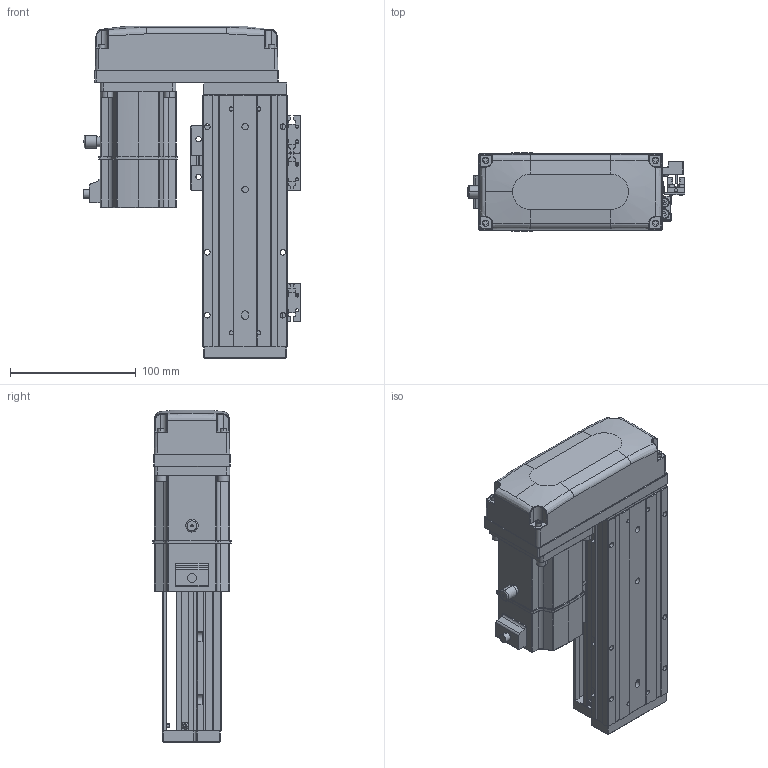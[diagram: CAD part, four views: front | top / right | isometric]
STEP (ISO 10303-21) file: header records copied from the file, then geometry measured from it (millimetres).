
FILE_DESCRIPTION (( 'STEP AP203' ), '1' );
FILE_NAME ('KTHA60-100-BR-M20-C4L.step', '2022-12-16T01:38:18', ( '微软用户' ), ( '微软中国' ), 'SwSTEP 2.0', 'SolidWorks 2020', '' );
FILE_SCHEMA (( 'CONFIG_CONTROL_DESIGN' ));
Length unit declared in the file: millimetre
Products named in the file (17): KTHA60-005; GBT77-2000M3-3; KTHA60-100-BR-M20-C4L; GB¨uT 70.2-M3¡Á5_M3¡Á6; GBT 70.1-M3℅6; GBT 70.3-M3℅6; CTHA60-016; EE_SX911P_R; KTHA60-002; CTHA60-017; BTH80-026; KTHA60-001_200; CTHA60-021; CTHA60-006-2_CTHA60-006-2; KTHA60-004; GBT 70.1-M4×16; _X2_4E0983F1_X0_200W_1
Assembly tree (51 placements, depth 2):
  KTHA60-100-BR-M20-C4L
    KTHA60-001_200
    KTHA60-004
    KTHA60-005
    GB¨uT 70.2-M3¡Á5_M3¡Á6  x6
    GBT 70.3-M3℅6  x4
    EE_SX911P_R  x3
    CTHA60-017  x3
    CTHA60-021  x2
    GBT 70.1-M4×16  x8
    GBT77-2000M3-3  x6
    GBT 70.1-M3℅6  x10
    CTHA60-016  x2
    KTHA60-002
    BTH80-026
    CTHA60-006-2_CTHA60-006-2
    _X2_4E0983F1_X0_200W_1
Bounding box: 173.02 x 62.42 x 264 mm (x, y, z)
Volume: 871866 mm3; surface area: 229686.5 mm2
Topology: 54 solids, 54 shells, 2368 faces, 5605 edges, 3442 vertices
Faces by surface type: plane 1249, cylinder 626, cone 276, bspline 109, torus 92, sphere 16
Entity records: 42948 total; most frequent: CARTESIAN_POINT 10146, DIRECTION 6258, ORIENTED_EDGE 6258, EDGE_CURVE 3129, AXIS2_PLACEMENT_3D 2173, VERTEX_POINT 1951, VECTOR 1912, LINE 1912
